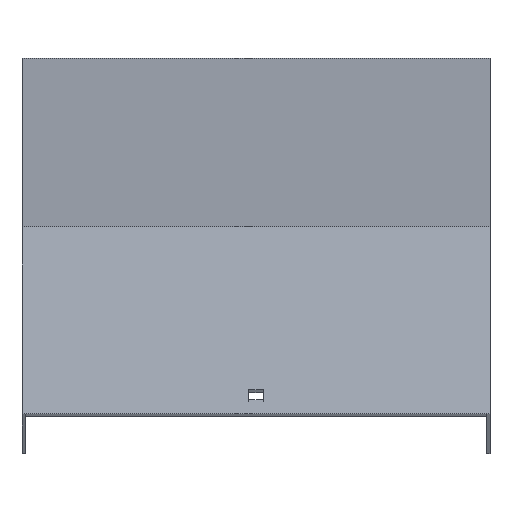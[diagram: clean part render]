
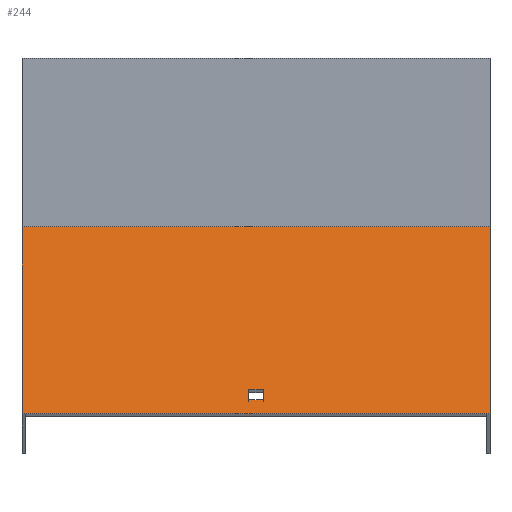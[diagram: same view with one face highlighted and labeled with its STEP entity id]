
A CAD part, top view. The second image highlights one B-rep face of the part: STEP entity #244.
In plain terms, the highlighted planar face has unit normal (0, 0.866, 0.5).
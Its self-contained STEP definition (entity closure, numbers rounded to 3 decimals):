
#1 = FACE_OUTER_BOUND ( 'NONE', #314, .T. ) ;
#50 = EDGE_CURVE ( 'NONE', #350, #641, #241, .T. ) ;
#67 = EDGE_CURVE ( 'NONE', #355, #350, #765, .T. ) ;
#75 = DIRECTION ( 'NONE',  ( -1., 0., 0. ) ) ;
#84 = DIRECTION ( 'NONE',  ( 0., -0.5, 0.866 ) ) ;
#95 = ORIENTED_EDGE ( 'NONE', *, *, #536, .T. ) ;
#102 = VECTOR ( 'NONE', #84, 1000. ) ;
#110 = DIRECTION ( 'NONE',  ( 0., -0.5, 0.866 ) ) ;
#124 = LINE ( 'NONE', #460, #440 ) ;
#130 = ORIENTED_EDGE ( 'NONE', *, *, #638, .T. ) ;
#148 = CARTESIAN_POINT ( 'NONE',  ( 101.5, -53.573, 437.213 ) ) ;
#154 = VECTOR ( 'NONE', #777, 1000. ) ;
#160 = CARTESIAN_POINT ( 'NONE',  ( -3.25, -128.89, 567.665 ) ) ;
#162 = CARTESIAN_POINT ( 'NONE',  ( -3.25, -124.39, 559.871 ) ) ;
#184 = VERTEX_POINT ( 'NONE', #456 ) ;
#189 = DIRECTION ( 'NONE',  ( -1., 0., 0. ) ) ;
#195 = DIRECTION ( 'NONE',  ( 0., 0.5, -0.866 ) ) ;
#196 = CARTESIAN_POINT ( 'NONE',  ( -101.5, -53.573, 437.213 ) ) ;
#241 = LINE ( 'NONE', #831, #154 ) ;
#244 = ADVANCED_FACE ( 'NONE', ( #603, #1 ), #265, .F. ) ;
#259 = CARTESIAN_POINT ( 'NONE',  ( 101.5, -124.39, 559.871 ) ) ;
#264 = VECTOR ( 'NONE', #770, 1000. ) ;
#265 = PLANE ( 'NONE',  #320 ) ;
#314 = EDGE_LOOP ( 'NONE', ( #492, #487, #599, #95 ) ) ;
#320 = AXIS2_PLACEMENT_3D ( 'NONE', #539, #793, #195 ) ;
#321 = EDGE_CURVE ( 'NONE', #712, #688, #481, .T. ) ;
#350 = VERTEX_POINT ( 'NONE', #160 ) ;
#355 = VERTEX_POINT ( 'NONE', #516 ) ;
#363 = CARTESIAN_POINT ( 'NONE',  ( -101.5, -134.89, 578.057 ) ) ;
#364 = VECTOR ( 'NONE', #110, 1000. ) ;
#369 = CARTESIAN_POINT ( 'NONE',  ( 101.5, -54.89, 439.493 ) ) ;
#373 = CARTESIAN_POINT ( 'NONE',  ( 3.25, -54.89, 439.493 ) ) ;
#399 = EDGE_LOOP ( 'NONE', ( #835, #130, #636, #852 ) ) ;
#425 = VECTOR ( 'NONE', #498, 1000. ) ;
#440 = VECTOR ( 'NONE', #189, 1000. ) ;
#443 = CARTESIAN_POINT ( 'NONE',  ( 101.5, -134.89, 578.057 ) ) ;
#456 = CARTESIAN_POINT ( 'NONE',  ( 3.25, -124.39, 559.871 ) ) ;
#460 = CARTESIAN_POINT ( 'NONE',  ( 101.5, -134.89, 578.057 ) ) ;
#478 = VERTEX_POINT ( 'NONE', #148 ) ;
#481 = LINE ( 'NONE', #615, #102 ) ;
#483 = LINE ( 'NONE', #675, #747 ) ;
#487 = ORIENTED_EDGE ( 'NONE', *, *, #792, .F. ) ;
#492 = ORIENTED_EDGE ( 'NONE', *, *, #321, .T. ) ;
#498 = DIRECTION ( 'NONE',  ( 0., -0.5, 0.866 ) ) ;
#501 = CARTESIAN_POINT ( 'NONE',  ( 101.5, -128.89, 567.665 ) ) ;
#516 = CARTESIAN_POINT ( 'NONE',  ( 3.25, -128.89, 567.665 ) ) ;
#527 = VECTOR ( 'NONE', #782, 1000. ) ;
#536 = EDGE_CURVE ( 'NONE', #478, #712, #483, .T. ) ;
#539 = CARTESIAN_POINT ( 'NONE',  ( 101.5, -54.89, 439.493 ) ) ;
#540 = LINE ( 'NONE', #259, #527 ) ;
#599 = ORIENTED_EDGE ( 'NONE', *, *, #602, .F. ) ;
#602 = EDGE_CURVE ( 'NONE', #478, #620, #630, .T. ) ;
#603 = FACE_BOUND ( 'NONE', #399, .T. ) ;
#615 = CARTESIAN_POINT ( 'NONE',  ( -101.5, -54.89, 439.493 ) ) ;
#620 = VERTEX_POINT ( 'NONE', #443 ) ;
#630 = LINE ( 'NONE', #369, #364 ) ;
#636 = ORIENTED_EDGE ( 'NONE', *, *, #67, .T. ) ;
#638 = EDGE_CURVE ( 'NONE', #184, #355, #766, .T. ) ;
#641 = VERTEX_POINT ( 'NONE', #162 ) ;
#675 = CARTESIAN_POINT ( 'NONE',  ( 101.5, -53.573, 437.213 ) ) ;
#688 = VERTEX_POINT ( 'NONE', #363 ) ;
#712 = VERTEX_POINT ( 'NONE', #196 ) ;
#726 = EDGE_CURVE ( 'NONE', #641, #184, #540, .T. ) ;
#747 = VECTOR ( 'NONE', #75, 1000. ) ;
#765 = LINE ( 'NONE', #501, #264 ) ;
#766 = LINE ( 'NONE', #373, #425 ) ;
#770 = DIRECTION ( 'NONE',  ( -1., 0., 0. ) ) ;
#777 = DIRECTION ( 'NONE',  ( 0., 0.5, -0.866 ) ) ;
#782 = DIRECTION ( 'NONE',  ( 1., 0., 0. ) ) ;
#792 = EDGE_CURVE ( 'NONE', #620, #688, #124, .T. ) ;
#793 = DIRECTION ( 'NONE',  ( 0., -0.866, -0.5 ) ) ;
#831 = CARTESIAN_POINT ( 'NONE',  ( -3.25, -54.89, 439.493 ) ) ;
#835 = ORIENTED_EDGE ( 'NONE', *, *, #726, .T. ) ;
#852 = ORIENTED_EDGE ( 'NONE', *, *, #50, .T. ) ;
